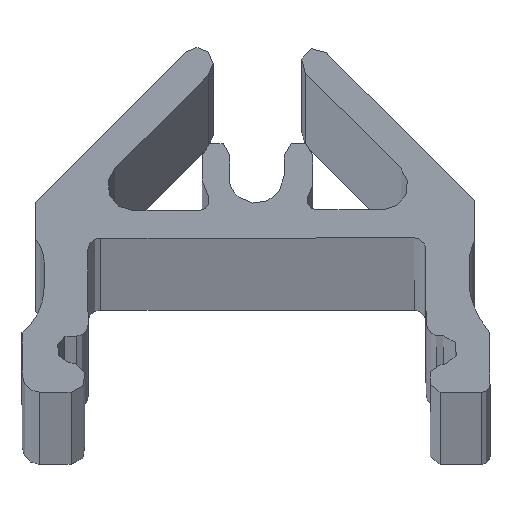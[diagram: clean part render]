
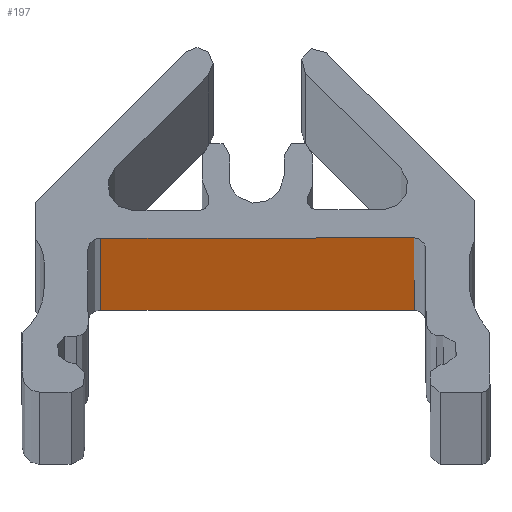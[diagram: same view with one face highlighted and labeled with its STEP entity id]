
A CAD part, top view. The second image highlights one B-rep face of the part: STEP entity #197.
In plain terms, the highlighted planar face has unit normal (0.001, -1, 0).
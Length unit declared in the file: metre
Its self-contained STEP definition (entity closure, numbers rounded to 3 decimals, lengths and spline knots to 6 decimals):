
#197=ADVANCED_FACE('5:9479',(#389),#390,.T.);
#389=FACE_OUTER_BOUND('',#575,.T.);
#390=PLANE('',#576);
#575=EDGE_LOOP('',(#1063,#1064,#1065,#1066));
#576=AXIS2_PLACEMENT_3D('',#1067,#1068,#1069);
#1063=ORIENTED_EDGE('',*,*,#1344,.T.);
#1064=ORIENTED_EDGE('',*,*,#1151,.T.);
#1065=ORIENTED_EDGE('',*,*,#1347,.F.);
#1066=ORIENTED_EDGE('',*,*,#1348,.T.);
#1067=CARTESIAN_POINT('',(0.000556,0.000017,0.0));
#1068=DIRECTION('',(0.001,-1.,0.0));
#1069=DIRECTION('',(1.,0.001,0.0));
#1151=EDGE_CURVE('5:9944',#1377,#1375,#1378,.F.);
#1344=EDGE_CURVE('5:9938',#1663,#1377,#1664,.T.);
#1347=EDGE_CURVE('5:9947',#1667,#1375,#1668,.T.);
#1348=EDGE_CURVE('5:9950',#1667,#1663,#1669,.T.);
#1375=VERTEX_POINT('',#1701);
#1377=VERTEX_POINT('',#1703);
#1378=LINE('',#1704,#1705);
#1663=VERTEX_POINT('',#2090);
#1664=LINE('',#2091,#2092);
#1667=VERTEX_POINT('',#2095);
#1668=LINE('',#2096,#2097);
#1669=LINE('',#2098,#2099);
#1701=CARTESIAN_POINT('',(-0.005132,0.000013,1.49999));
#1703=CARTESIAN_POINT('',(0.006243,0.000022,1.49999));
#1704=CARTESIAN_POINT('',(0.000278,0.000017,1.49999));
#1705=VECTOR('',#2124,1.0);
#2090=CARTESIAN_POINT('',(0.006243,0.000022,0.0));
#2091=CARTESIAN_POINT('',(0.006243,0.000022,0.0));
#2092=VECTOR('',#2354,1.0);
#2095=CARTESIAN_POINT('',(-0.005132,0.000013,0.0));
#2096=CARTESIAN_POINT('',(-0.005132,0.000013,0.0));
#2097=VECTOR('',#2358,1.0);
#2098=CARTESIAN_POINT('',(-0.005132,0.000013,0.0));
#2099=VECTOR('',#2359,1.0);
#2124=DIRECTION('',(1.,0.001,-0.0));
#2354=DIRECTION('',(0.0,0.0,1.0));
#2358=DIRECTION('',(0.0,0.0,1.0));
#2359=DIRECTION('',(1.,0.001,0.0));
